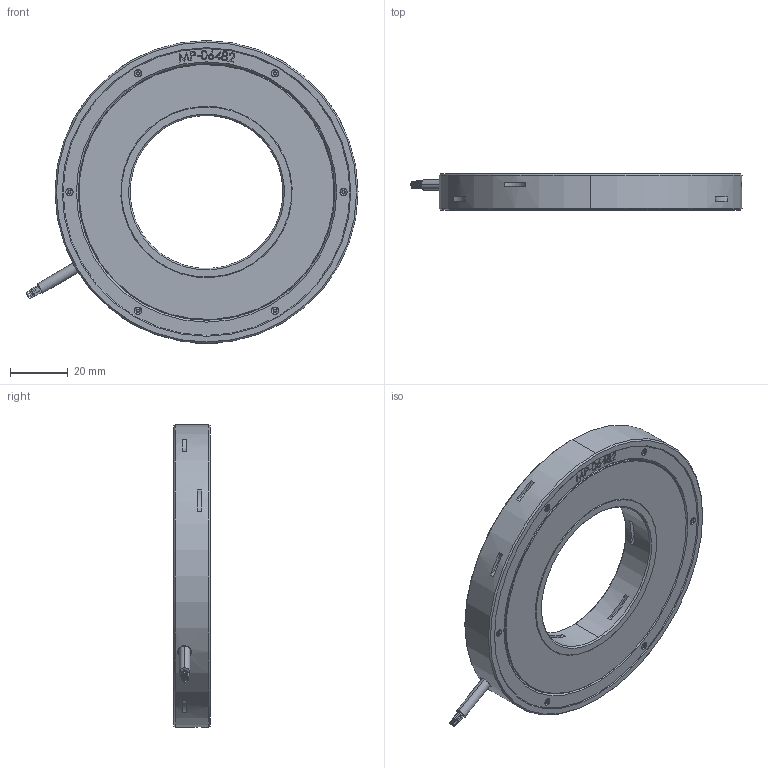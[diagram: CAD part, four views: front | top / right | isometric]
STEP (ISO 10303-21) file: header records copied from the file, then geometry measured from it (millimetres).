
FILE_DESCRIPTION (( 'STEP AP214' ), '1' );
FILE_NAME ('VLZ-100.STEP', '2025-06-30T09:23:49', ( '' ), ( '' ), 'SwSTEP 2.0', 'SolidWorks 2022', '' );
FILE_SCHEMA (( 'AUTOMOTIVE_DESIGN' ));
Length unit declared in the file: millimetre
Products named in the file (7): MP-06482; MP-06484; MP-00200; Copy of CB-00027^VLZ-100-XX-SX; MP-06680; MP-06486_glued; VLZ-100
Assembly tree (11 placements, depth 2):
  VLZ-100
    MP-06482
    MP-00200  x6
    MP-06680
    MP-06484
    MP-06486_glued
    Copy of CB-00027^VLZ-100-XX-SX
Bounding box: 115.06 x 12.5 x 105 mm (x, y, z)
Volume: 49650.8 mm3; surface area: 42125.1 mm2
Topology: 37 solids, 37 shells, 1421 faces, 3306 edges, 2113 vertices
Faces by surface type: plane 692, bspline 282, cylinder 253, cone 158, torus 36
Entity records: 57813 total; most frequent: CARTESIAN_POINT 28105, ORIENTED_EDGE 5908, DIRECTION 4952, EDGE_CURVE 2954, VERTEX_POINT 1928, LINE 1734, VECTOR 1734, AXIS2_PLACEMENT_3D 1609
